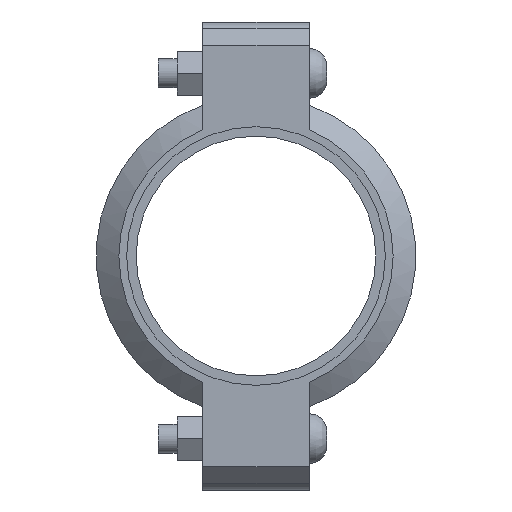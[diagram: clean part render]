
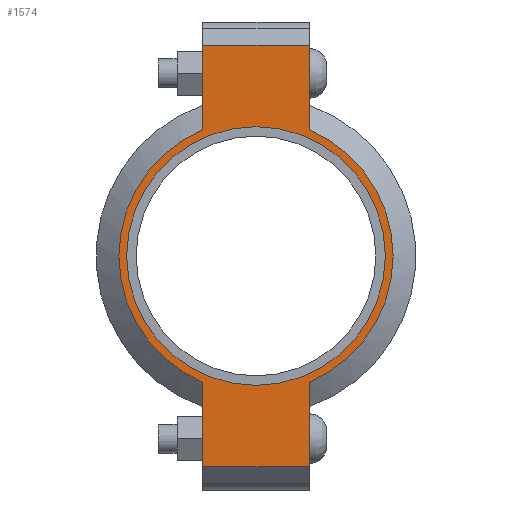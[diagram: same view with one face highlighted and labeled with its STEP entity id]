
A CAD part, left-side view. The second image highlights one B-rep face of the part: STEP entity #1574.
In plain terms, the highlighted planar face has unit normal (-1, 0, 0) as drawn and (0, 0, 1) by its records, which use the part's own axes.
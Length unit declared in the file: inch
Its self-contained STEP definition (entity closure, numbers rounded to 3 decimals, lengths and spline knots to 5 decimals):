
#198=LINE('',#2756,#291);
#206=LINE('',#2792,#299);
#213=LINE('',#2813,#306);
#222=LINE('',#2845,#315);
#223=LINE('',#2849,#316);
#224=LINE('',#2851,#317);
#291=VECTOR('',#2244,0.3937);
#299=VECTOR('',#2260,0.3937);
#306=VECTOR('',#2279,0.3937);
#315=VECTOR('',#2304,0.3937);
#316=VECTOR('',#2309,0.3937);
#317=VECTOR('',#2310,0.3937);
#373=FACE_BOUND('',#551,.T.);
#445=FACE_OUTER_BOUND('',#550,.T.);
#550=EDGE_LOOP('',(#1315,#1316,#1317,#1318,#1319,#1320,#1321,#1322));
#551=EDGE_LOOP('',(#1323));
#623=CIRCLE('',#1802,2.7815);
#649=CIRCLE('',#1861,2.95);
#650=CIRCLE('',#1862,2.95);
#715=VERTEX_POINT('',#2572);
#758=VERTEX_POINT('',#2753);
#759=VERTEX_POINT('',#2755);
#770=VERTEX_POINT('',#2787);
#771=VERTEX_POINT('',#2791);
#778=VERTEX_POINT('',#2810);
#779=VERTEX_POINT('',#2812);
#789=VERTEX_POINT('',#2848);
#790=VERTEX_POINT('',#2850);
#871=EDGE_CURVE('',#715,#715,#623,.T.);
#932=EDGE_CURVE('',#759,#758,#198,.T.);
#946=EDGE_CURVE('',#771,#770,#206,.T.);
#956=EDGE_CURVE('',#779,#778,#213,.T.);
#971=EDGE_CURVE('',#771,#758,#222,.T.);
#972=EDGE_CURVE('',#770,#779,#649,.T.);
#973=EDGE_CURVE('',#789,#778,#223,.T.);
#974=EDGE_CURVE('',#789,#790,#224,.T.);
#975=EDGE_CURVE('',#790,#759,#650,.T.);
#1315=ORIENTED_EDGE('',*,*,#971,.F.);
#1316=ORIENTED_EDGE('',*,*,#946,.T.);
#1317=ORIENTED_EDGE('',*,*,#972,.T.);
#1318=ORIENTED_EDGE('',*,*,#956,.T.);
#1319=ORIENTED_EDGE('',*,*,#973,.F.);
#1320=ORIENTED_EDGE('',*,*,#974,.T.);
#1321=ORIENTED_EDGE('',*,*,#975,.T.);
#1322=ORIENTED_EDGE('',*,*,#932,.T.);
#1323=ORIENTED_EDGE('',*,*,#871,.T.);
#1416=PLANE('',#1860);
#1574=ADVANCED_FACE('',(#445,#373),#1416,.T.);
#1802=AXIS2_PLACEMENT_3D('',#2574,#2120,#2121);
#1860=AXIS2_PLACEMENT_3D('',#2846,#2305,#2306);
#1861=AXIS2_PLACEMENT_3D('',#2847,#2307,#2308);
#1862=AXIS2_PLACEMENT_3D('',#2852,#2311,#2312);
#2120=DIRECTION('center_axis',(0.,0.,-1.));
#2121=DIRECTION('ref_axis',(1.,0.,0.));
#2244=DIRECTION('',(1.,0.,0.));
#2260=DIRECTION('',(-1.,0.,0.));
#2279=DIRECTION('',(-1.,0.,0.));
#2304=DIRECTION('',(0.,-1.,0.));
#2305=DIRECTION('center_axis',(0.,0.,1.));
#2306=DIRECTION('ref_axis',(-1.,0.,0.));
#2307=DIRECTION('center_axis',(0.,0.,1.));
#2308=DIRECTION('ref_axis',(1.,0.,0.));
#2309=DIRECTION('',(0.,1.,0.));
#2310=DIRECTION('',(1.,0.,0.));
#2311=DIRECTION('center_axis',(0.,0.,1.));
#2312=DIRECTION('ref_axis',(1.,0.,0.));
#2572=CARTESIAN_POINT('',(-2.7815,0.,1.065));
#2574=CARTESIAN_POINT('Origin',(0.,0.,1.065));
#2753=CARTESIAN_POINT('',(4.535,-1.15,1.065));
#2755=CARTESIAN_POINT('',(2.71662,-1.15,1.065));
#2756=CARTESIAN_POINT('',(5.035,-1.15,1.065));
#2787=CARTESIAN_POINT('',(2.71662,1.15,1.065));
#2791=CARTESIAN_POINT('',(4.535,1.15,1.065));
#2792=CARTESIAN_POINT('',(-5.035,1.15,1.065));
#2810=CARTESIAN_POINT('',(-4.535,1.15,1.065));
#2812=CARTESIAN_POINT('',(-2.71662,1.15,1.065));
#2813=CARTESIAN_POINT('',(-5.035,1.15,1.065));
#2845=CARTESIAN_POINT('',(4.535,-0.575,1.065));
#2846=CARTESIAN_POINT('Origin',(0.,0.,
1.065));
#2847=CARTESIAN_POINT('Origin',(0.,0.,1.065));
#2848=CARTESIAN_POINT('',(-4.535,-1.15,1.065));
#2849=CARTESIAN_POINT('',(-4.535,0.575,1.065));
#2850=CARTESIAN_POINT('',(-2.71662,-1.15,1.065));
#2851=CARTESIAN_POINT('',(5.035,-1.15,1.065));
#2852=CARTESIAN_POINT('Origin',(0.,0.,1.065));
